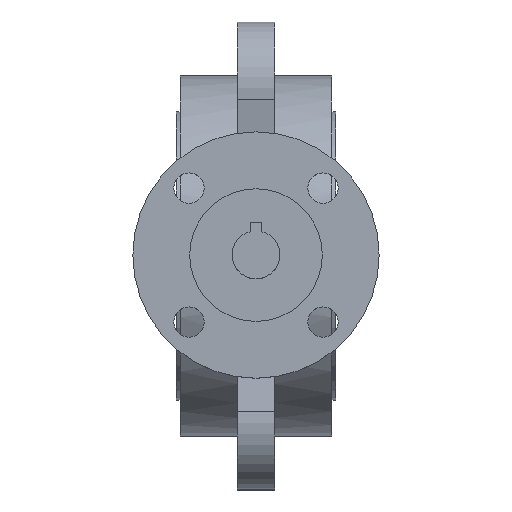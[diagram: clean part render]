
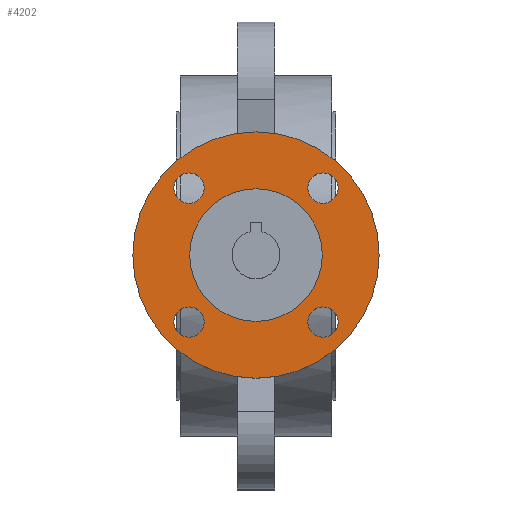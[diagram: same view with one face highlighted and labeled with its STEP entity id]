
A CAD part, top view. The second image highlights one B-rep face of the part: STEP entity #4202.
In plain terms, the highlighted planar face has unit normal (0, 0, 1).
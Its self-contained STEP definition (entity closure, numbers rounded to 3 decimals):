
#4202=ADVANCED_FACE('',(#8674,#8676,#8678,#8680,#8682,#8684),#8686,.T.);
#8674=FACE_BOUND('',#8675,.T.);
#8675=EDGE_LOOP('',(#12318));
#8676=FACE_BOUND('',#8677,.T.);
#8677=EDGE_LOOP('',(#12319));
#8678=FACE_BOUND('',#8679,.T.);
#8679=EDGE_LOOP('',(#12320));
#8680=FACE_BOUND('',#8681,.T.);
#8681=EDGE_LOOP('',(#12321));
#8682=FACE_BOUND('',#8683,.T.);
#8683=EDGE_LOOP('',(#12322));
#8684=FACE_BOUND('',#8685,.T.);
#8685=EDGE_LOOP('',(#12323));
#8686=PLANE('',#8687);
#8687=AXIS2_PLACEMENT_3D('',#8688,#8689,#8690);
#8688=CARTESIAN_POINT('',(0.,0.,140.));
#8689=DIRECTION('',(0.,0.,1.));
#8690=DIRECTION('',(0.,1.,0.));
#12318=ORIENTED_EDGE('',*,*,#14226,.F.);
#12319=ORIENTED_EDGE('',*,*,#14227,.T.);
#12320=ORIENTED_EDGE('',*,*,#14228,.T.);
#12321=ORIENTED_EDGE('',*,*,#14229,.T.);
#12322=ORIENTED_EDGE('',*,*,#14343,.T.);
#12323=ORIENTED_EDGE('',*,*,#14230,.T.);
#14226=EDGE_CURVE('',#16774,#16774,#16775,.T.);
#14227=EDGE_CURVE('',#16776,#16776,#16777,.F.);
#14228=EDGE_CURVE('',#16778,#16778,#16779,.F.);
#14229=EDGE_CURVE('',#16780,#16780,#16781,.F.);
#14230=EDGE_CURVE('',#16782,#16782,#16783,.F.);
#14343=EDGE_CURVE('',#17008,#17008,#17009,.T.);
#16774=VERTEX_POINT('',#23352);
#16775=CIRCLE('',#23353,32.5);
#16776=VERTEX_POINT('',#23357);
#16777=CIRCLE('',#23358,4.);
#16778=VERTEX_POINT('',#23362);
#16779=CIRCLE('',#23363,4.);
#16780=VERTEX_POINT('',#23367);
#16781=CIRCLE('',#23368,4.);
#16782=VERTEX_POINT('',#23372);
#16783=CIRCLE('',#23373,4.);
#17008=VERTEX_POINT('',#23905);
#17009=CIRCLE('',#23906,17.5);
#23352=CARTESIAN_POINT('',(0.,32.5,140.));
#23353=AXIS2_PLACEMENT_3D('',#23354,#23355,#23356);
#23354=CARTESIAN_POINT('',(0.,0.,140.));
#23355=DIRECTION('',(0.,0.,-1.));
#23356=DIRECTION('',(0.,1.,0.));
#23357=CARTESIAN_POINT('',(-13.678,-17.678,140.));
#23358=AXIS2_PLACEMENT_3D('',#23359,#23360,#23361);
#23359=CARTESIAN_POINT('',(-17.678,-17.678,140.));
#23360=DIRECTION('',(0.,0.,1.));
#23361=DIRECTION('',(1.,0.,0.));
#23362=CARTESIAN_POINT('',(-17.678,13.678,140.));
#23363=AXIS2_PLACEMENT_3D('',#23364,#23365,#23366);
#23364=CARTESIAN_POINT('',(-17.678,17.678,140.));
#23365=DIRECTION('',(0.,0.,1.));
#23366=DIRECTION('',(0.,-1.,0.));
#23367=CARTESIAN_POINT('',(13.678,17.678,140.));
#23368=AXIS2_PLACEMENT_3D('',#23369,#23370,#23371);
#23369=CARTESIAN_POINT('',(17.678,17.678,140.));
#23370=DIRECTION('',(0.,0.,1.));
#23371=DIRECTION('',(-1.,0.,0.));
#23372=CARTESIAN_POINT('',(17.678,-13.678,140.));
#23373=AXIS2_PLACEMENT_3D('',#23374,#23375,#23376);
#23374=CARTESIAN_POINT('',(17.678,-17.678,140.));
#23375=DIRECTION('',(0.,0.,1.));
#23376=DIRECTION('',(0.,1.,0.));
#23905=CARTESIAN_POINT('',(0.,17.5,140.));
#23906=AXIS2_PLACEMENT_3D('',#23907,#23908,#23909);
#23907=CARTESIAN_POINT('',(0.,0.,140.));
#23908=DIRECTION('',(0.,0.,-1.));
#23909=DIRECTION('',(0.,1.,0.));
